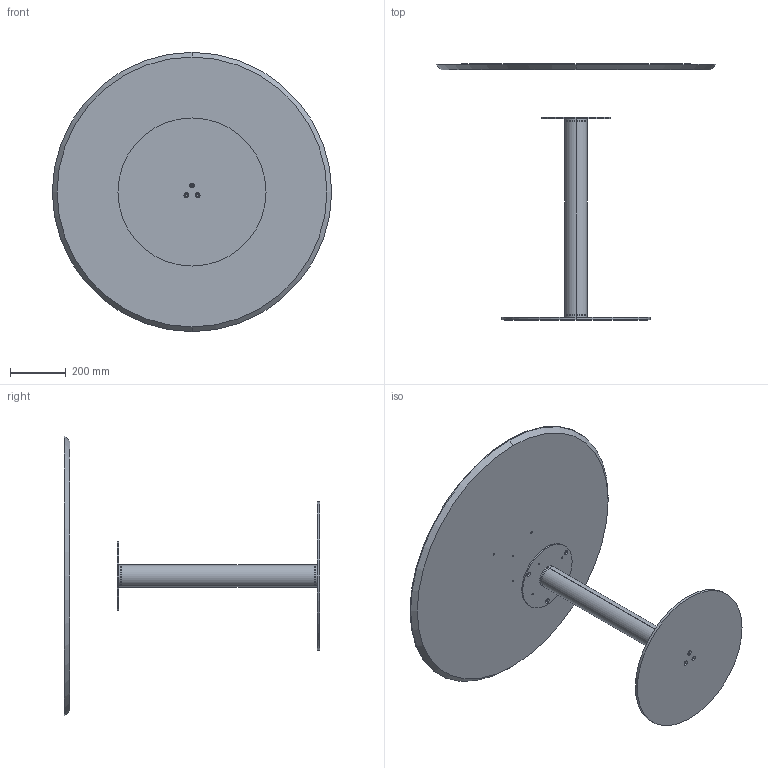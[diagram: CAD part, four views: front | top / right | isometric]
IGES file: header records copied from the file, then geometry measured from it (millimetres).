
Start section: SolidWorks IGES file using analytic representation for surfaces
Global section: file name: Y:\eforma\TECNICO\SOLIDWORKS\E-FORMA\5-TAVOLINI BISTRO\CILINDRO BISTRÒ\02 parts\CB35W.IGS; native system: SolidWorks 2022; preprocessor: SolidWorks 2022; author: eforma.tech; date: 240808.102817; units: millimetre
Bounding box: 1000 x 915.94 x 1000 mm (x, y, z)
Volume: 18093072.7 mm3; surface area: 2532827.2 mm2
Topology: 6 solids, 6 shells, 110 faces, 258 edges, 156 vertices
Faces by surface type: revolution 98, plane 12
